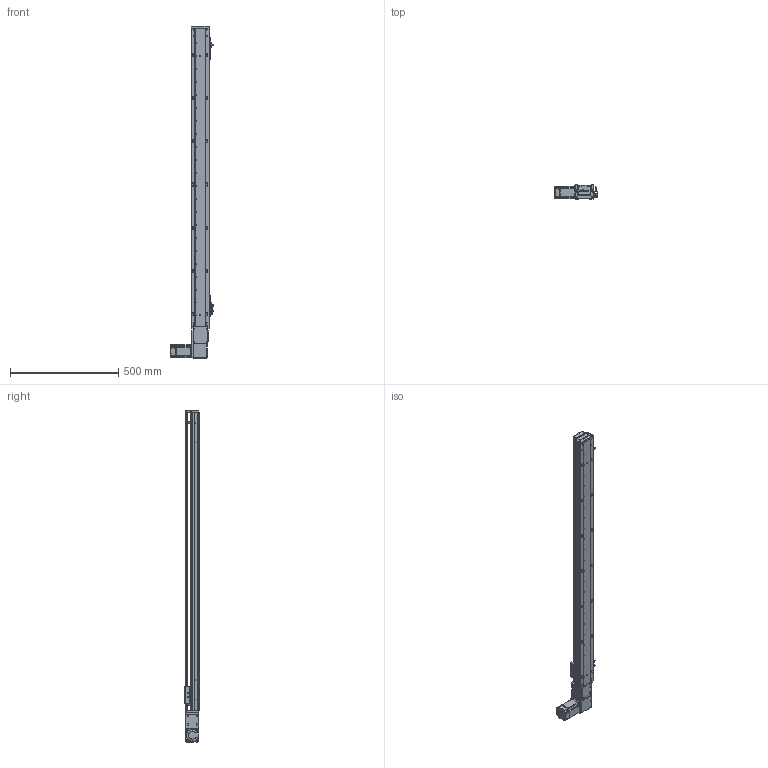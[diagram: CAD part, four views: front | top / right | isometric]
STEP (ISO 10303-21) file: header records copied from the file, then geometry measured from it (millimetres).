
FILE_DESCRIPTION (( 'STEP AP203' ), '1' );
FILE_NAME ('RY80-T-300-LK.SLDASM_1200.step', '2021-03-01T01:59:13', ( '盈信电脑' ), ( '东莞市道滘镇水果街19号' ), 'SwSTEP 2.0', 'SolidWorks 2012', '' );
FILE_SCHEMA (( 'CONFIG_CONTROL_DESIGN' ));
Length unit declared in the file: millimetre
Products named in the file (19): RY80-T-M4蹟翐; RY80-T-300-LK.SLDASM_1200; RY80-T萇儂假蚾啣; RY80-T肮祭謫俋欶; 侂狟200W萇儂; 1; RY80-T肮祭湍揤輸2; 滅袉蝶18-10; RY80-T粣創揤踡輸; RY80-T翋肮祭謫裔啣; RY80-T肮祭湍揤輸1; RY80-T-翋肮祭謫釱; RY80俋离覜茼え; 覜茼ん672; RY80-T肮祭謫臏賑輸; 672嫖萇羲壽假蚾釱; RY80-T綴裔啣; RY80-T-300-LK倰第奻裔啣_1200; RY80-T-300-LK倰第菁釱_1200
Assembly tree (24 placements, depth 3):
  RY80-T-300-LK.SLDASM_1200
    RY80-T-300-LK倰第菁釱_1200
    RY80-T肮祭謫臏賑輸
    RY80-T-300-LK倰第奻裔啣_1200
    RY80-T綴裔啣
    672嫖萇羲壽假蚾釱  x2
    覜茼ん672  x3
    RY80俋离覜茼え
    RY80-T-翋肮祭謫釱
    RY80-T肮祭湍揤輸1
    RY80-T肮祭湍揤輸2
    RY80-T粣創揤踡輸
    RY80-T翋肮祭謫裔啣  x2
    滅袉蝶18-10  x2
    侂狟200W萇儂
      1
    RY80-T肮祭謫俋欶
    RY80-T萇儂假蚾啣
    RY80-T-M4蹟翐  x2
Bounding box: 198.7 x 65 x 1535 mm (x, y, z)
Volume: 2439436 mm3; surface area: 1023874.9 mm2
Topology: 23 solids, 23 shells, 2466 faces, 6808 edges, 4423 vertices
Faces by surface type: plane 1317, cylinder 944, cone 149, bspline 56
Entity records: 77561 total; most frequent: CARTESIAN_POINT 18813, ORIENTED_EDGE 12060, DIRECTION 11344, EDGE_CURVE 6030, VERTEX_POINT 3964, AXIS2_PLACEMENT_3D 3819, VECTOR 3706, LINE 3706
